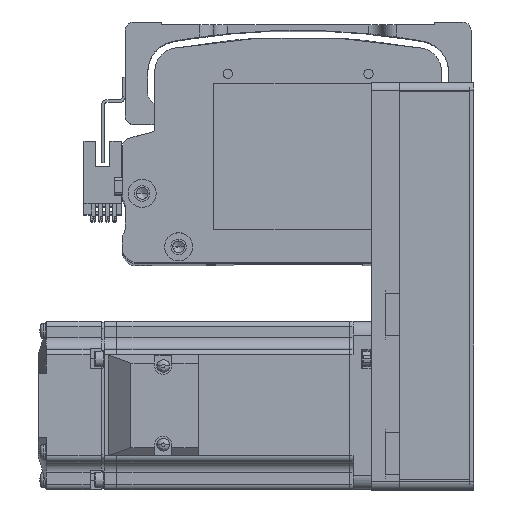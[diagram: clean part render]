
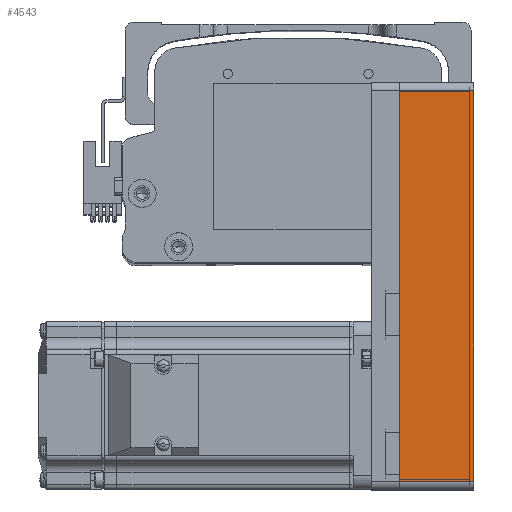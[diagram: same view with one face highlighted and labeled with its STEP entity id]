
A CAD part, top view. The second image highlights one B-rep face of the part: STEP entity #4543.
In plain terms, the highlighted planar face has unit normal (0, 0, 1) as drawn and (0, -1, 0) by its records, which use the part's own axes.
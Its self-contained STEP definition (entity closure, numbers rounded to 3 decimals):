
#619 = FACE_OUTER_BOUND ( 'NONE', #15084, .T. ) ;
#4543 = ADVANCED_FACE ( 'NONE', ( #619 ), #4648, .F. ) ;
#4648 = PLANE ( 'NONE',  #79965 ) ;
#6639 = DIRECTION ( 'NONE',  ( 0., 0., 1. ) ) ;
#11623 = CARTESIAN_POINT ( 'NONE',  ( 72.5, -30., 26.5 ) ) ;
#14898 = LINE ( 'NONE', #36911, #29473 ) ;
#15084 = EDGE_LOOP ( 'NONE', ( #41397, #26080, #42862, #76493 ) ) ;
#16936 = VERTEX_POINT ( 'NONE', #71713 ) ;
#17903 = DIRECTION ( 'NONE',  ( 1., 0., 0. ) ) ;
#18814 = EDGE_CURVE ( 'NONE', #75136, #16936, #48353, .T. ) ;
#19816 = EDGE_CURVE ( 'NONE', #59647, #16936, #51090, .T. ) ;
#21580 = EDGE_CURVE ( 'NONE', #59647, #52564, #14898, .T. ) ;
#23121 = CARTESIAN_POINT ( 'NONE',  ( 72.5, -30., 0. ) ) ;
#26080 = ORIENTED_EDGE ( 'NONE', *, *, #18814, .T. ) ;
#29473 = VECTOR ( 'NONE', #49347, 1000. ) ;
#29852 = DIRECTION ( 'NONE',  ( 0., 1., 0. ) ) ;
#29946 = CARTESIAN_POINT ( 'NONE',  ( -69.5, -30., 26.5 ) ) ;
#31896 = VECTOR ( 'NONE', #6639, 1000. ) ;
#36911 = CARTESIAN_POINT ( 'NONE',  ( -69.5, -30., 26.5 ) ) ;
#38125 = CARTESIAN_POINT ( 'NONE',  ( -69.5, -30., 0. ) ) ;
#41397 = ORIENTED_EDGE ( 'NONE', *, *, #47097, .T. ) ;
#42862 = ORIENTED_EDGE ( 'NONE', *, *, #19816, .F. ) ;
#47097 = EDGE_CURVE ( 'NONE', #52564, #75136, #74921, .T. ) ;
#48353 = LINE ( 'NONE', #56276, #31896 ) ;
#49347 = DIRECTION ( 'NONE',  ( 0., 0., -1. ) ) ;
#51090 = LINE ( 'NONE', #11623, #65654 ) ;
#52564 = VERTEX_POINT ( 'NONE', #38125 ) ;
#56276 = CARTESIAN_POINT ( 'NONE',  ( 69.5, -30., 26.5 ) ) ;
#56473 = VECTOR ( 'NONE', #79011, 1000. ) ;
#59647 = VERTEX_POINT ( 'NONE', #29946 ) ;
#65654 = VECTOR ( 'NONE', #17903, 1000. ) ;
#67032 = CARTESIAN_POINT ( 'NONE',  ( 72.5, -30., 26.5 ) ) ;
#71713 = CARTESIAN_POINT ( 'NONE',  ( 69.5, -30., 26.5 ) ) ;
#71739 = CARTESIAN_POINT ( 'NONE',  ( 69.5, -30., 0. ) ) ;
#73239 = DIRECTION ( 'NONE',  ( -1., 0., 0. ) ) ;
#74921 = LINE ( 'NONE', #23121, #56473 ) ;
#75136 = VERTEX_POINT ( 'NONE', #71739 ) ;
#76493 = ORIENTED_EDGE ( 'NONE', *, *, #21580, .T. ) ;
#79011 = DIRECTION ( 'NONE',  ( 1., 0., 0. ) ) ;
#79965 = AXIS2_PLACEMENT_3D ( 'NONE', #67032, #29852, #73239 ) ;
